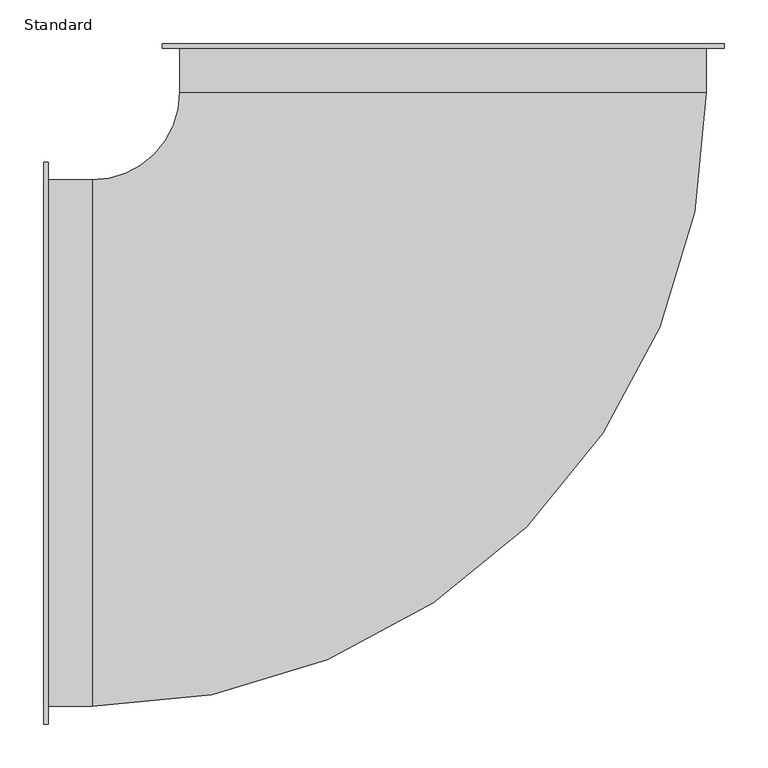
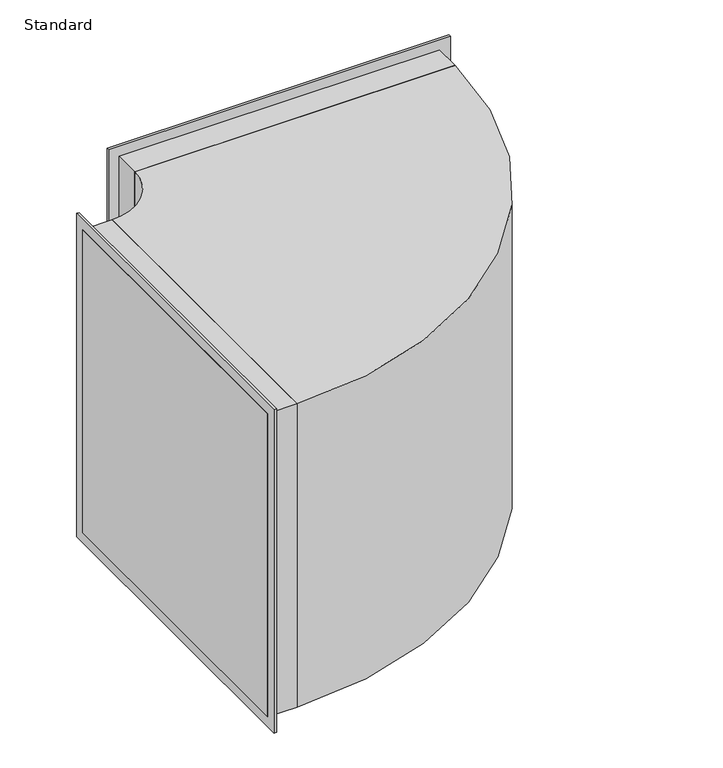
"""IFC4 building model written with IfcOpenShell, lengths in millimetres: duct fitting geometry, Bogen rechteck BS : Standard."""

from ifc_helpers import new_model, si_unit, point, frame, frame_2d, origin, place, context, project, spatial, polyline, circle_curve, trimmed, segment, composite_curve, outline, extrude, source, transform, mapped, element, save


def standard_352db8d4(model_context):
    return source(origin(), model_context, "Body", "SweptSolid", [
        extrude(outline(polyline([(300.0, 400.0), (-300.0, 400.0), (-300.0, 455.0), (300.0, 455.0), (300.0, 400.0)])), frame((0.0, 0.0, -300.0), z_axis=(0.0, 0.0, 1.0), x_axis=(1.0, 0.0, 0.0)), (0.0, 0.0, 1.0), 600.0),
        extrude(outline(polyline([(-455.0, 300.0), (-400.0, 300.0), (-400.0, -300.0), (-455.0, -300.0), (-455.0, 300.0)])), frame((0.0, 0.0, -300.0), z_axis=(0.0, 0.0, 1.0), x_axis=(1.0, 0.0, 0.0)), (0.0, 0.0, 1.0), 600.0),
        extrude(outline(composite_curve([segment(trimmed(circle_curve(frame_2d((-400.0, 400.0)), 700.0), [point((300.0, 400.0))], [point((-400.0, -300.0))], False, "CARTESIAN"), True, "CONTINUOUS"), segment(polyline([(-400.0, -300.0), (-400.0, 300.0)]), True, "CONTINUOUS"), segment(trimmed(circle_curve(frame_2d((-400.0, 400.0)), 100.0), [point((-400.0, 300.0))], [point((-300.0, 400.0))], True, "CARTESIAN"), True, "CONTINUOUS"), segment(polyline([(-300.0, 400.0), (300.0, 400.0)]), True, "CONTINUOUS")], self_intersect=False)), frame((0.0, 0.0, -300.0), z_axis=(0.0, 0.0, 1.0), x_axis=(1.0, 0.0, 0.0)), (0.0, 0.0, 1.0), 600.0),
        extrude(outline(polyline([(-455.0, -320.0), (-455.0, 320.0), (-450.0, 320.0), (-450.0, -320.0), (-455.0, -320.0)])), frame((0.0, 0.0, -320.0), z_axis=(0.0, 0.0, 1.0), x_axis=(1.0, 0.0, 0.0)), (0.0, 0.0, 1.0), 640.0),
        extrude(outline(polyline([(320.0, 450.0), (-320.0, 450.0), (-320.0, 455.0), (320.0, 455.0), (320.0, 450.0)])), frame((0.0, 0.0, -320.0), z_axis=(0.0, 0.0, 1.0), x_axis=(1.0, 0.0, 0.0)), (0.0, 0.0, 1.0), 640.0),
    ])


if __name__ == "__main__":
    model = new_model("IFC4")
    model_context = context("Model", 3, world=origin())
    ifc_project = project(units=[si_unit("LENGTHUNIT", "METRE", prefix="MILLI")], contexts=[model_context])
    site = spatial("IfcSite", under=ifc_project)
    building = spatial("IfcBuilding", under=site)
    placement = place(None, origin())
    standard_shape = standard_352db8d4(model_context)
    element("IfcDuctFitting", 1, ObjectType="Bogen rechteck BS : Standard", at=placement, inside=building, context=model_context, shape_type="MappedRepresentation", body=[
        mapped(standard_shape, transform((0.0, 0.0, 0.0), x_axis=(1.0, 0.0, 0.0), y_axis=(0.0, 1.0, 0.0), z_axis=(0.0, 0.0, 1.0))),
    ])
    save(model, "model.ifc")
